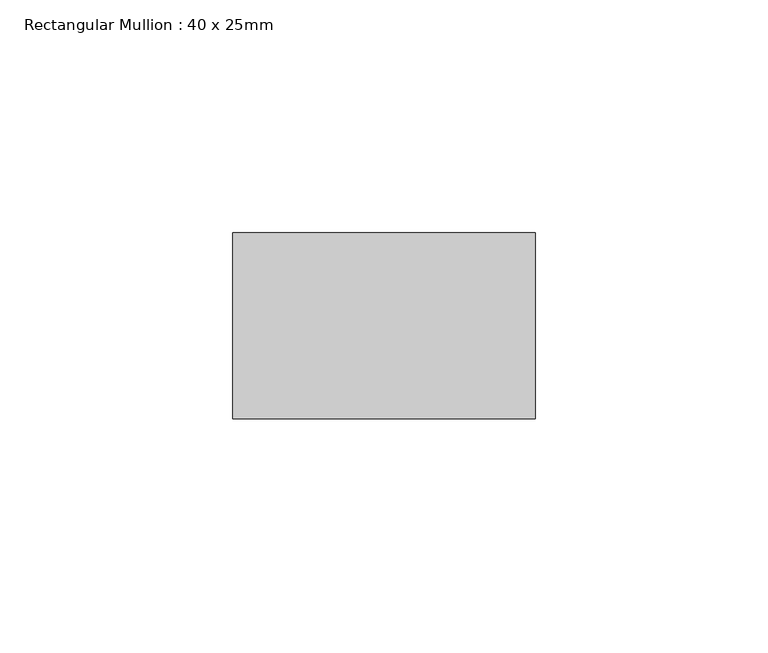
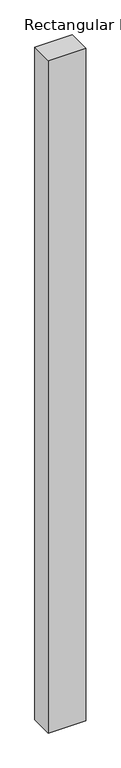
"""IFC4 building model written with IfcOpenShell, lengths in millimetres: member geometry, Rectangular Mullion : 40 x 25mm."""

from ifc_helpers import new_model, si_unit, frame, origin, place, context, project, spatial, polyline, outline, extrude, source, transform, mapped, element, save


def rectangular_mullion_40_x_25mm_8f9cba56(model_context):
    return source(origin(), model_context, "Body", "SweptSolid", [
        extrude(outline(polyline([(0.0, -20.0), (0.0, -60.0), (-65.0, -60.0), (-65.0, -20.0), (0.0, -20.0)])), frame((0.0, 0.0, -1230.8666667), z_axis=(0.0, 0.0, 1.0), x_axis=(1.0, 0.0, 0.0)), (0.0, 0.0, 1.0), 1230.8666667),
    ])


if __name__ == "__main__":
    model = new_model("IFC4")
    model_context = context("Model", 3, world=origin())
    ifc_project = project(units=[si_unit("LENGTHUNIT", "METRE", prefix="MILLI")], contexts=[model_context])
    site = spatial("IfcSite", under=ifc_project)
    building = spatial("IfcBuilding", under=site)
    placement = place(None, origin())
    rectangular_mullion_40_x_25mm_shape = rectangular_mullion_40_x_25mm_8f9cba56(model_context)
    element("IfcMember", 1, ObjectType="Rectangular Mullion : 40 x 25mm", at=placement, inside=building, context=model_context, shape_type="MappedRepresentation", body=[
        mapped(rectangular_mullion_40_x_25mm_shape, transform((0.0, 0.0, 0.0), x_axis=(1.0, 0.0, 0.0), y_axis=(0.0, 1.0, 0.0), z_axis=(0.0, 0.0, 1.0))),
    ])
    save(model, "model.ifc")
